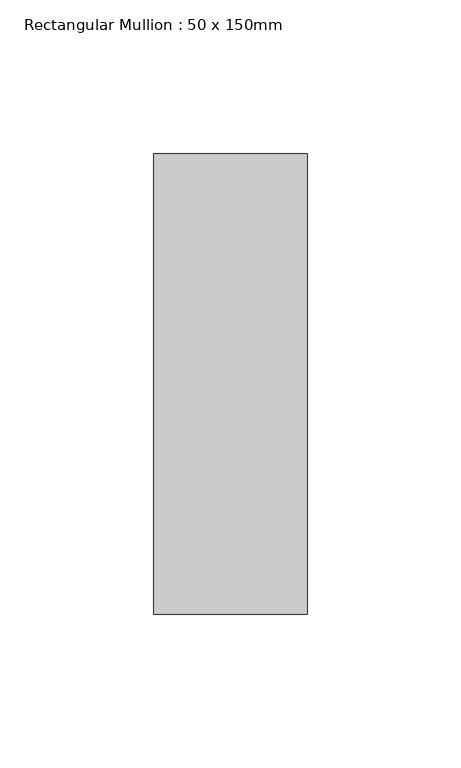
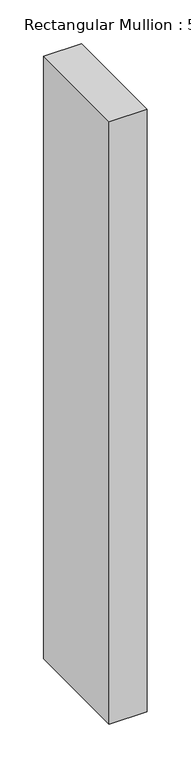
"""IFC4 building model written with IfcOpenShell, lengths in millimetres: member geometry, Rectangular Mullion : 50 x 150mm."""

from ifc_helpers import new_model, si_unit, frame, origin, place, context, project, spatial, polyline, outline, extrude, source, transform, mapped, element, save


def rectangular_mullion_50_x_150mm_bbba4ab8(model_context):
    return source(origin(), model_context, "Body", "SweptSolid", [
        extrude(outline(polyline([(0.0, 75.0), (0.0, -75.0), (-50.0, -75.0), (-50.0, 75.0), (0.0, 75.0)])), frame((0.0, 0.0, -840.0), z_axis=(0.0, 0.0, 1.0), x_axis=(1.0, 0.0, 0.0)), (0.0, 0.0, 1.0), 840.0),
    ])


if __name__ == "__main__":
    model = new_model("IFC4")
    model_context = context("Model", 3, world=origin())
    ifc_project = project(units=[si_unit("LENGTHUNIT", "METRE", prefix="MILLI")], contexts=[model_context])
    site = spatial("IfcSite", under=ifc_project)
    building = spatial("IfcBuilding", under=site)
    placement = place(None, origin())
    rectangular_mullion_50_x_150mm_shape = rectangular_mullion_50_x_150mm_bbba4ab8(model_context)
    element("IfcMember", 1, ObjectType="Rectangular Mullion : 50 x 150mm", at=placement, inside=building, context=model_context, shape_type="MappedRepresentation", body=[
        mapped(rectangular_mullion_50_x_150mm_shape, transform((0.0, 0.0, 0.0), x_axis=(1.0, 0.0, 0.0), y_axis=(0.0, 1.0, 0.0), z_axis=(0.0, 0.0, 1.0))),
    ])
    save(model, "model.ifc")
